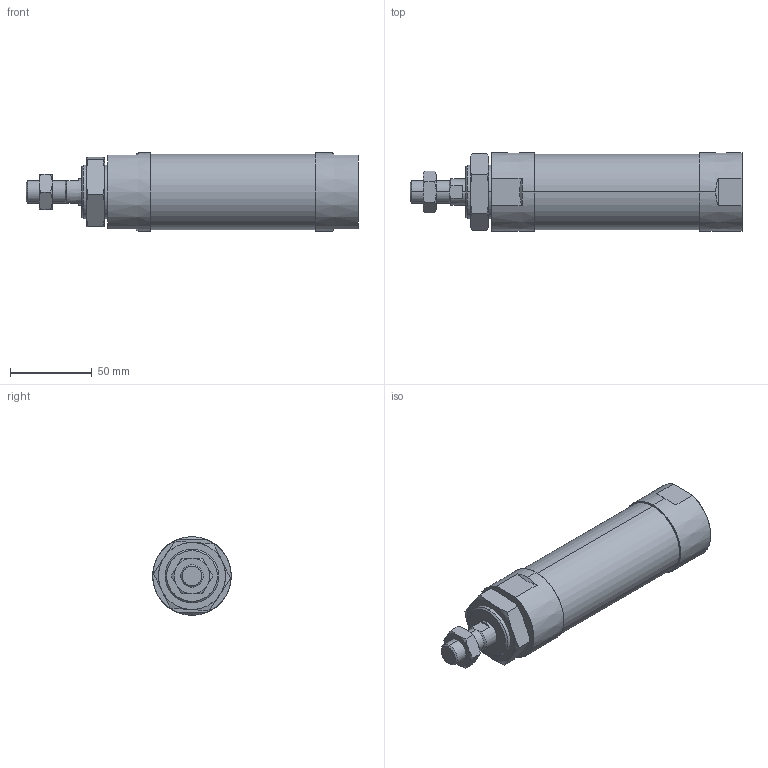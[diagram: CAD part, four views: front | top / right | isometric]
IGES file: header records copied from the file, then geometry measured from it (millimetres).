
Start section: SolidWorks IGES file using analytic representation for surfaces
Global section: file name: C:\Users\Toshiba\Desktop\JGND2-40-50-N.IGS; native system: SolidWorks 2014; preprocessor: SolidWorks 2014; author: Toshiba; date: 160804.110553; units: millimetre
Bounding box: 203 x 48 x 48 mm (x, y, z)
Surface area: 36065.1 mm2 (no closed solid volume)
Topology: 0 solids, 0 shells, 89 faces, 1702 edges, 1698 vertices
Faces by surface type: bspline 56, revolution 33
